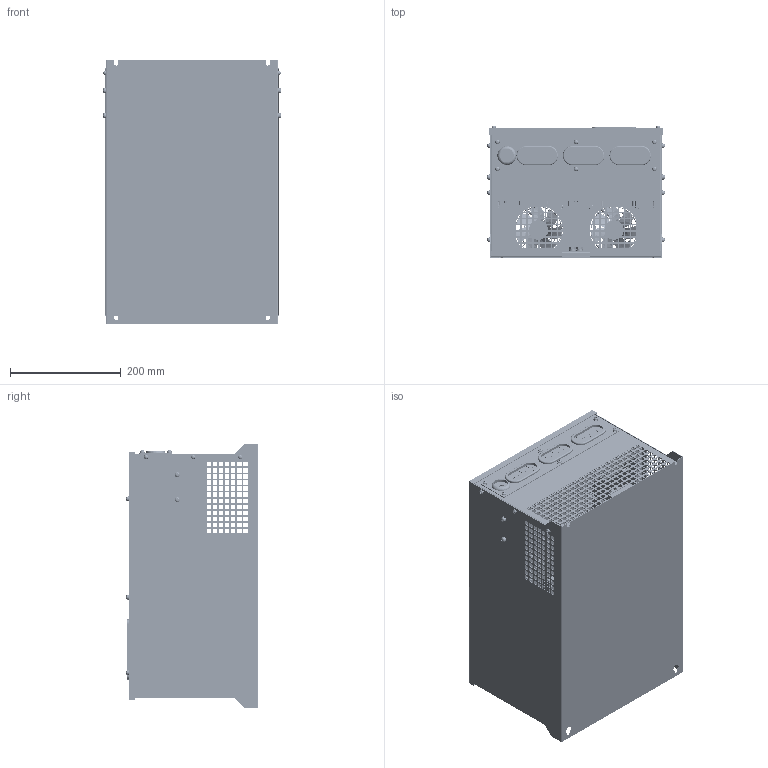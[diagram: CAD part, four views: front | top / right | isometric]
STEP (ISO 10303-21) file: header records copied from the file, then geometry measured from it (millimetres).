
FILE_DESCRIPTION((''),'2;1');
FILE_NAME('0-C4S01_ASM_ASM','2024-05-23T',('Lenovo'),(''),'CREO PARAMETRIC BY PTC INC, 2016130','CREO PARAMETRIC BY PTC INC, 2016130','');
FILE_SCHEMA(('CONFIG_CONTROL_DESIGN'));
Products named in the file (85): C4M03-0301-01_1; MZJ-S-M4-ZC_1; C4M04-0301-01_ASM_2_ASM; C4M06-0301-02-01_7; MZJ-BSO-3_5M3-20-ZC_1; MZJ-SO-M4-10-ZC_1; MZJ-BSO-3_5M3-15-ZC_1; C4M06-0301-02-01_ASM_1_ASM; C4M06-0301-02_ASM_1_ASM; C4M03-0301-04_1; C4M03-0301-04_ASM_1_ASM; C4M03-0301-05_1; C4M03-0301-05_ASM_1_ASM; C4M03-0301-06_1; C4M03-0301-06_ASM_1_ASM; C4M03-0301-07_2; MZJ-S-M5-ZC_1; MZJ-S-M6-ZC_1; C4M03-0301-07_ASM_1_ASM; C4M06-0301-G01_ASM_2_ASM; C4S00-0302_1; C4S00-0302_ASM_1_ASM; MZJ-BSO-3_5M3-18-ZC_1; MZJ-S-M3-ZC_1; C4S00-0303-G01_ASM_1_ASM; C4M03-0304_1; C4M03-0304_ASM_1_ASM; C4S00-0306-01_1; MZJ-SO-M4-12-ZC_1; C4S00-0306_ASM_1_ASM; C4M03-0307-01_1; C4M03-0307_ASM_1_ASM; C4H03-X310_1; C4S00-0308_1; C4S00-0309-G01_ASM_1_ASM; C4L00-X307_ASM_1_ASM; C4H08-X308_1; C4M06-0301-G02_ASM_2_ASM; MZJ-BS0-3_5M3-5-ZC_2; C4M04-0305_ASM_1_ASM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
Assembly tree (287 placements, depth 7):
  0-C4S01_ASM_ASM
    0-C4S01_ASM_16_ASM
      C4S01-03_ASM_3_ASM
        C4M06-0301-G01_ASM_2_ASM
          C4M04-0301-01_ASM_2_ASM
            C4M03-0301-01_1
            MZJ-S-M4-ZC_1  x6
          C4M06-0301-02_ASM_1_ASM
            C4M06-0301-02-01_ASM_1_ASM
              C4M06-0301-02-01_7
              MZJ-BSO-3_5M3-20-ZC_1  x5
              MZJ-S-M4-ZC_1
              MZJ-SO-M4-10-ZC_1  x3
              MZJ-BSO-3_5M3-15-ZC_1  x5
          C4M03-0301-04_ASM_1_ASM  x2
            C4M03-0301-04_1
            MZJ-S-M4-ZC_1
          C4M03-0301-05_ASM_1_ASM  x5
            C4M03-0301-05_1
            MZJ-S-M4-ZC_1
          C4M03-0301-06_ASM_1_ASM
            C4M03-0301-06_1
            MZJ-S-M4-ZC_1  x8
          C4M03-0301-07_ASM_1_ASM
            C4M03-0301-07_2
            MZJ-S-M5-ZC_1  x2
            MZJ-S-M6-ZC_1  x2
        C4S00-0302_ASM_1_ASM
          C4S00-0302_1
          MZJ-S-M4-ZC_1  x2
          MZJ-S-M5-ZC_1  x4
        C4S00-0303-G01_ASM_1_ASM
          MZJ-BSO-3_5M3-18-ZC_1  x4
          MZJ-S-M3-ZC_1  x3
        C4M03-0304_ASM_1_ASM
          C4M03-0304_1
          MZJ-S-M4-ZC_1  x12
        C4S00-0306_ASM_1_ASM
          C4S00-0306-01_1
          MZJ-SO-M4-12-ZC_1
        C4M03-0307_ASM_1_ASM
          C4M03-0307-01_1
        C4H03-X310_1
        C4S00-0308_1
        C4S00-0309-G01_ASM_1_ASM
          MZJ-BSO-3_5M3-18-ZC_1  x6
        C4L00-X307_ASM_1_ASM
          MZJ-SO-M4-12-ZC_1
        C4H08-X308_1
        C4M06-0301-G02_ASM_2_ASM
          C4M04-0301-01_ASM_2_ASM
            C4M03-0301-01_1
            MZJ-S-M4-ZC_1  x6
          C4M06-0301-02_ASM_1_ASM
            C4M06-0301-02-01_ASM_1_ASM
              C4M06-0301-02-01_7
              MZJ-BSO-3_5M3-20-ZC_1  x5
              MZJ-S-M4-ZC_1
              MZJ-SO-M4-10-ZC_1  x3
              MZJ-BSO-3_5M3-15-ZC_1  x5
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Bounding box: 322.91 x 239.16 x 476 mm (x, y, z)
Volume: 2013964.8 mm3; surface area: 3155219 mm2
Topology: 315 solids, 315 shells, 14838 faces, 38159 edges, 24640 vertices
Faces by surface type: plane 10178, cylinder 2820, cone 1194, bspline 224, torus 206, sphere 202, extrusion 14
Entity records: 141648 total; most frequent: CARTESIAN_POINT 26202, DIRECTION 23461, ORIENTED_EDGE 23202, EDGE_CURVE 11601, VECTOR 9133, LINE 9126, VERTEX_POINT 7580, AXIS2_PLACEMENT_3D 7164
